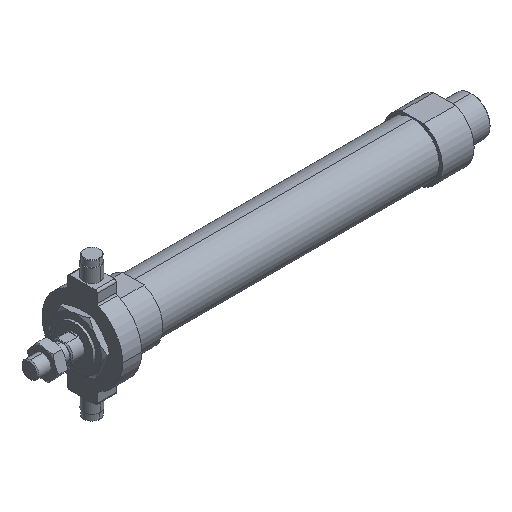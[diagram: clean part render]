
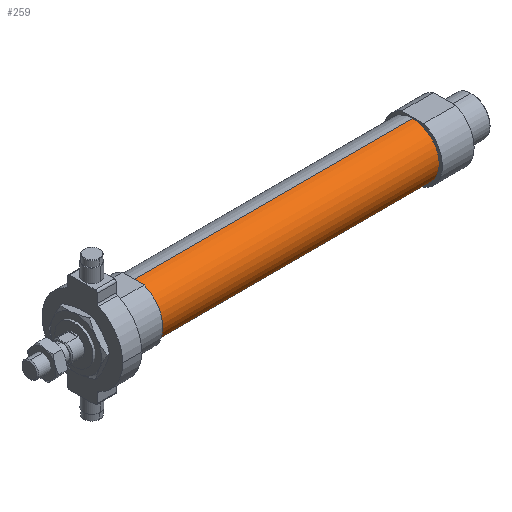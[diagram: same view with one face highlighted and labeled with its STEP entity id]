
A CAD part, isometric view. The second image highlights one B-rep face of the part: STEP entity #259.
In plain terms, the highlighted cylindrical face has radius 12.5 mm (diameter 25 mm), a partial arc.
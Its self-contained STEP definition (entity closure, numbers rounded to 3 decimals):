
#47 = DIRECTION ( 'NONE',  ( -1., 0., 0. ) ) ;
#95 = EDGE_CURVE ( 'NONE', #1947, #908, #912, .T. ) ;
#259 = ADVANCED_FACE ( 'NONE', ( #3073 ), #1417, .T. ) ;
#382 = ORIENTED_EDGE ( 'NONE', *, *, #1917, .T. ) ;
#412 = VERTEX_POINT ( 'NONE', #2375 ) ;
#791 = ORIENTED_EDGE ( 'NONE', *, *, #3237, .F. ) ;
#902 = CARTESIAN_POINT ( 'NONE',  ( 181., 0., -12.5 ) ) ;
#908 = VERTEX_POINT ( 'NONE', #3545 ) ;
#912 = LINE ( 'NONE', #3373, #3887 ) ;
#1023 = EDGE_LOOP ( 'NONE', ( #1960, #1547, #382, #791 ) ) ;
#1120 = CARTESIAN_POINT ( 'NONE',  ( -6.469, 0., 12.5 ) ) ;
#1417 = CYLINDRICAL_SURFACE ( 'NONE', #1837, 12.5 ) ;
#1547 = ORIENTED_EDGE ( 'NONE', *, *, #2452, .T. ) ;
#1595 = VERTEX_POINT ( 'NONE', #3935 ) ;
#1620 = CIRCLE ( 'NONE', #2789, 12.5 ) ;
#1624 = CARTESIAN_POINT ( 'NONE',  ( -6.469, 0., 0. ) ) ;
#1717 = VECTOR ( 'NONE', #2880, 1000. ) ;
#1742 = DIRECTION ( 'NONE',  ( -1., 0., 0. ) ) ;
#1837 = AXIS2_PLACEMENT_3D ( 'NONE', #1624, #47, #2107 ) ;
#1917 = EDGE_CURVE ( 'NONE', #1595, #412, #3064, .T. ) ;
#1947 = VERTEX_POINT ( 'NONE', #902 ) ;
#1960 = ORIENTED_EDGE ( 'NONE', *, *, #95, .F. ) ;
#2107 = DIRECTION ( 'NONE',  ( 0., 0., 1. ) ) ;
#2309 = CARTESIAN_POINT ( 'NONE',  ( 49., 0., 0. ) ) ;
#2333 = DIRECTION ( 'NONE',  ( -1., 0., 0. ) ) ;
#2375 = CARTESIAN_POINT ( 'NONE',  ( 49., 0., 12.5 ) ) ;
#2441 = AXIS2_PLACEMENT_3D ( 'NONE', #3884, #2696, #2574 ) ;
#2452 = EDGE_CURVE ( 'NONE', #1947, #1595, #3206, .T. ) ;
#2574 = DIRECTION ( 'NONE',  ( 0., 0., 1. ) ) ;
#2696 = DIRECTION ( 'NONE',  ( -1., 0., 0. ) ) ;
#2789 = AXIS2_PLACEMENT_3D ( 'NONE', #2309, #1742, #4267 ) ;
#2880 = DIRECTION ( 'NONE',  ( -1., 0., 0. ) ) ;
#3064 = LINE ( 'NONE', #1120, #1717 ) ;
#3073 = FACE_OUTER_BOUND ( 'NONE', #1023, .T. ) ;
#3206 = CIRCLE ( 'NONE', #2441, 12.5 ) ;
#3237 = EDGE_CURVE ( 'NONE', #908, #412, #1620, .T. ) ;
#3373 = CARTESIAN_POINT ( 'NONE',  ( -6.469, 0., -12.5 ) ) ;
#3545 = CARTESIAN_POINT ( 'NONE',  ( 49., 0., -12.5 ) ) ;
#3884 = CARTESIAN_POINT ( 'NONE',  ( 181., 0., 0. ) ) ;
#3887 = VECTOR ( 'NONE', #2333, 1000. ) ;
#3935 = CARTESIAN_POINT ( 'NONE',  ( 181., 0., 12.5 ) ) ;
#4267 = DIRECTION ( 'NONE',  ( 0., 0., 1. ) ) ;
